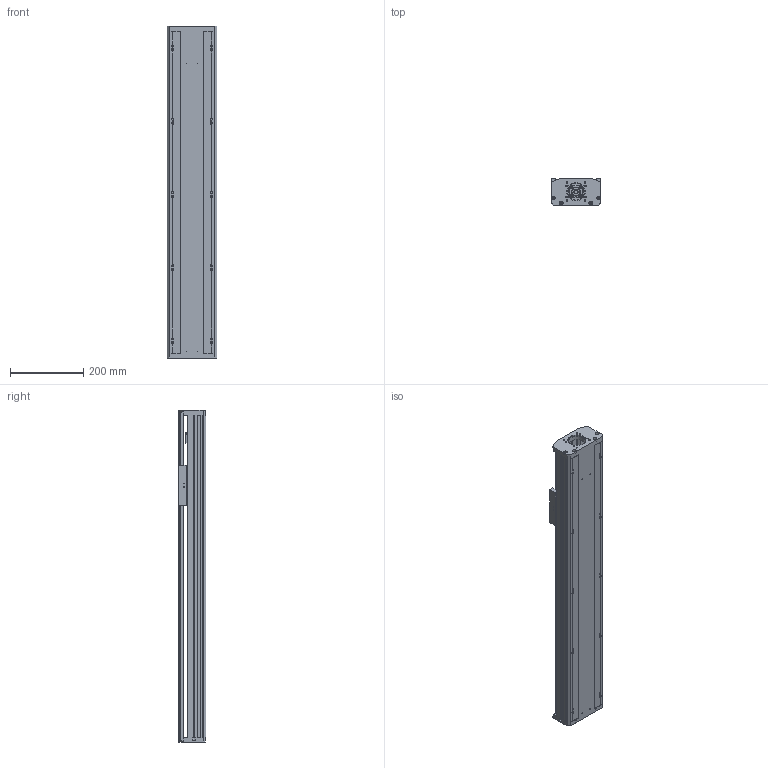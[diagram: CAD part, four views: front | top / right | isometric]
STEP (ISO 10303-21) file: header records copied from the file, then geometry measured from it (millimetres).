
FILE_DESCRIPTION(/* description */ (''),/* implementation_level */ '2;1');
FILE_NAME(/* name */ 'TKA136-F0-650_asm1.stp',/* time_stamp */ '2016-05-07T08:30:36+08:00',/* author */ (''),/* organization */ (''),/* preprocessor_version */ 'ST-DEVELOPER v15',/* originating_system */ 'SIEMENS PLM Software NX 8.5',/* authorisation */ '');
FILE_SCHEMA (('AUTOMOTIVE_DESIGN { 1 0 10303 214 3 1 1 1 }'));
Length unit declared in the file: millimetre
Products named in the file (3): 650-02; 650-01; TKA136-F0-650_asm1
Assembly tree (2 placements, depth 2):
  TKA136-F0-650_asm1
    650-01
    650-02
Bounding box: 136 x 75 x 907 mm (x, y, z)
Volume: 2901277.3 mm3; surface area: 1066345.8 mm2
Topology: 2 solids, 12 shells, 813 faces, 2281 edges, 1490 vertices
Faces by surface type: plane 383, cylinder 376, cone 54
Full cylindrical faces by diameter (mm): 2.5 x4, 3 x2, 3.3 x12, 4 x4, 4.2 x10, 4.5 x20, 5 x14, 5.5 x26, 6.6 x14, 8 x20, 10 x9, 10.5 x10, 11 x4, 11.6 x1, 12 x9, 15 x3, 16 x5, 17 x1, 24 x5, 26 x1, 28 x1, 46 x1, 50 x1
Entity records: 27132 total; most frequent: CARTESIAN_POINT 7344, DIRECTION 4097, ORIENTED_EDGE 3828, EDGE_CURVE 1914, AXIS2_PLACEMENT_3D 1559, VERTEX_POINT 1380, EDGE_LOOP 1188, LINE 979
